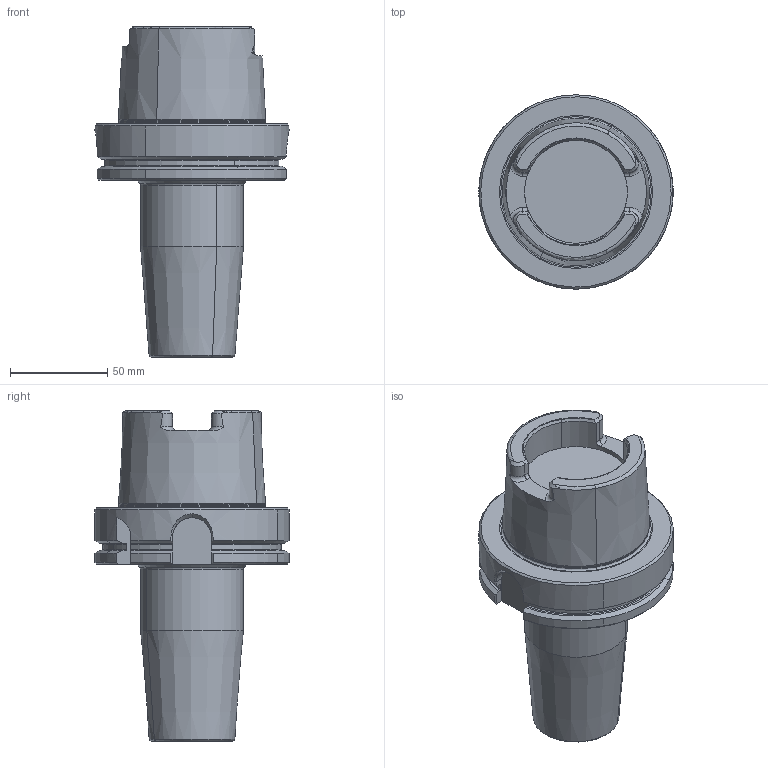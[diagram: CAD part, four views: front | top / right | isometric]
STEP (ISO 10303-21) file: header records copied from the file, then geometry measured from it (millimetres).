
FILE_DESCRIPTION(('CATIA V5 STEP','CAx-IF Rec.Pracs.--- Model Styling and Organization---1.2---2011-12-15'),'2;1');
FILE_NAME('\\nas01\drv1\utils\eitdev\rte\eit\transmagicconvert\db\out\4504228 L.stp','2014-04-06T12:43:20+00:00',('none'),('none'),'CATIA Version 5 Release 21 SP 5 (IN-10)','CATIA V5 STEP AP214','none');
FILE_SCHEMA(('AUTOMOTIVE_DESIGN { 1 0 10303 214 1 1 1 1 }'));
Length unit declared in the file: millimetre
Products named in the file (1): 60967234_0 Holder-Tool HSK A 100 SRKIN 32X120
Bounding box: 99.99 x 100 x 170 mm (x, y, z)
Volume: 563444.2 mm3; surface area: 52710 mm2
Topology: 1 solids, 1 shells, 153 faces, 395 edges, 247 vertices
Faces by surface type: plane 48, cone 36, cylinder 33, torus 32, bspline 2, extrusion 2
Entity records: 4859 total; most frequent: CARTESIAN_POINT 1591, ORIENTED_EDGE 790, DIRECTION 471, EDGE_CURVE 395, AXIS2_PLACEMENT_3D 249, VERTEX_POINT 247, CIRCLE 161, EDGE_LOOP 156
